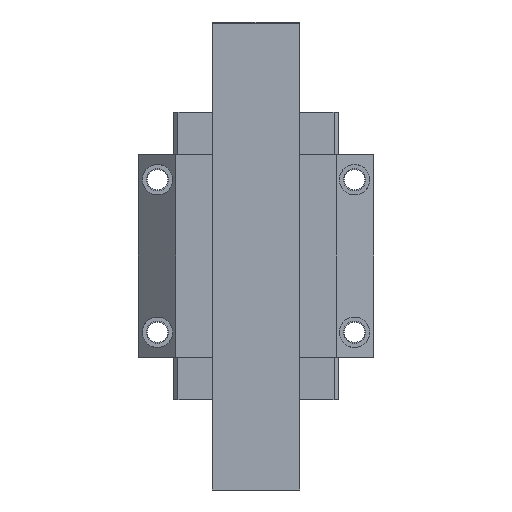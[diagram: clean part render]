
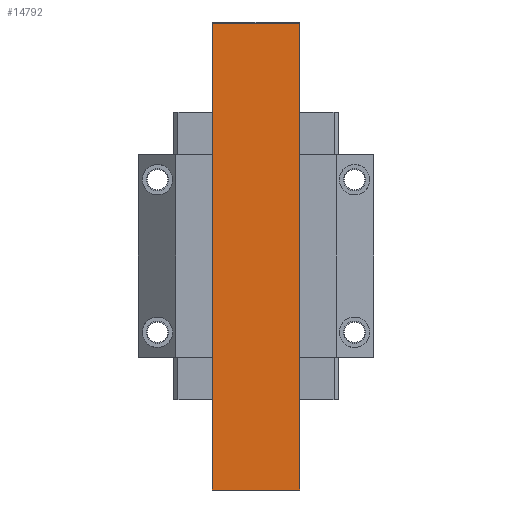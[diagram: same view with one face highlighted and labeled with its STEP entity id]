
A CAD part, front view. The second image highlights one B-rep face of the part: STEP entity #14792.
In plain terms, the highlighted planar face has unit normal (0, -1, 0).
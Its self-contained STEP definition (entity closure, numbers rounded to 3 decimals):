
#14129=DIRECTION('',(1.,0.,0.));
#14130=VECTOR('',#14129,63.);
#14131=CARTESIAN_POINT('',(-31.5,-35.,-168.65));
#14132=LINE('',#14131,#14130);
#14253=DIRECTION('',(0.,0.,1.));
#14254=VECTOR('',#14253,336.434);
#14255=CARTESIAN_POINT('',(31.5,-35.,-168.65));
#14256=LINE('',#14255,#14254);
#14257=DIRECTION('',(1.,0.,0.));
#14258=VECTOR('',#14257,63.);
#14259=CARTESIAN_POINT('',(-31.5,-35.,167.784));
#14260=LINE('',#14259,#14258);
#14261=DIRECTION('',(0.,0.,1.));
#14262=VECTOR('',#14261,336.434);
#14263=CARTESIAN_POINT('',(-31.5,-35.,-168.65));
#14264=LINE('',#14263,#14262);
#14445=CARTESIAN_POINT('',(31.5,-35.,167.784));
#14447=VERTEX_POINT('',#14445);
#14449=CARTESIAN_POINT('',(-31.5,-35.,167.784));
#14451=VERTEX_POINT('',#14449);
#14493=CARTESIAN_POINT('',(-31.5,-35.,-168.65));
#14494=VERTEX_POINT('',#14493);
#14495=CARTESIAN_POINT('',(31.5,-35.,-168.65));
#14496=VERTEX_POINT('',#14495);
#14779=CARTESIAN_POINT('',(-31.5,-35.,-168.65));
#14780=DIRECTION('',(0.,-1.,0.));
#14781=DIRECTION('',(1.,0.,0.));
#14782=AXIS2_PLACEMENT_3D('',#14779,#14780,#14781);
#14783=PLANE('',#14782);
#14785=ORIENTED_EDGE('',*,*,#14784,.T.);
#14786=ORIENTED_EDGE('',*,*,#14774,.F.);
#14787=ORIENTED_EDGE('',*,*,#14534,.F.);
#14789=ORIENTED_EDGE('',*,*,#14788,.T.);
#14790=EDGE_LOOP('',(#14785,#14786,#14787,#14789));
#14791=FACE_OUTER_BOUND('',#14790,.F.);
#14534=EDGE_CURVE('',#14494,#14496,#14132,.T.);
#14774=EDGE_CURVE('',#14496,#14447,#14256,.T.);
#14784=EDGE_CURVE('',#14451,#14447,#14260,.T.);
#14788=EDGE_CURVE('',#14494,#14451,#14264,.T.);
#14792=ADVANCED_FACE('',(#14791),#14783,.T.);
